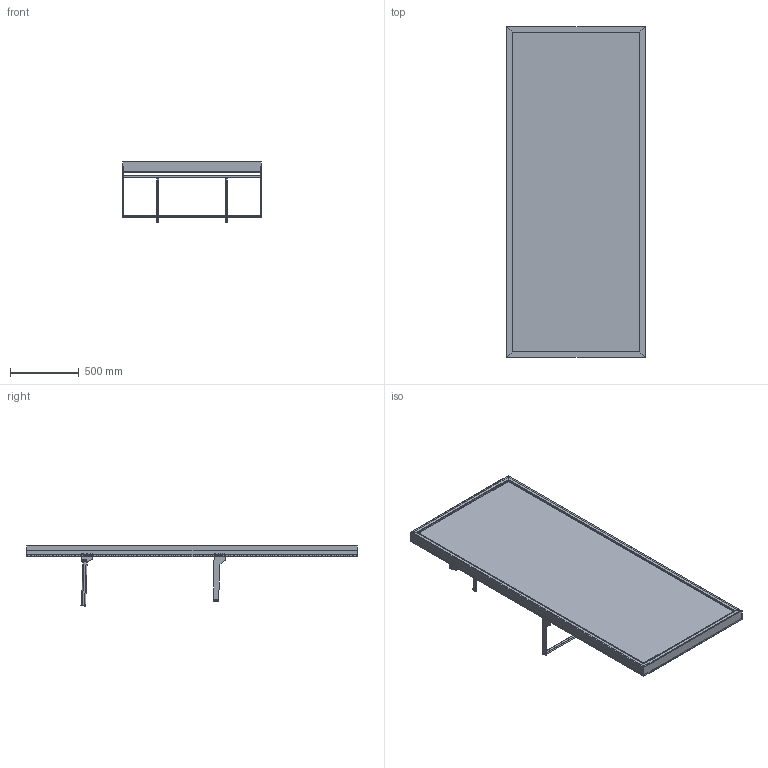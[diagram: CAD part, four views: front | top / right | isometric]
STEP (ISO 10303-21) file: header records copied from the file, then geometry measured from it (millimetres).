
FILE_DESCRIPTION (( 'STEP AP203' ), '1' );
FILE_NAME ('Heavy-Duty Single Clothing Display Wall (Config 2).STEP', '2026-03-30T14:15:05', ( '' ), ( '' ), 'SwSTEP 2.0', 'SolidWorks 2025', '' );
FILE_SCHEMA (( 'CONFIG_CONTROL_DESIGN' ));
Length unit declared in the file: millimetre
Products named in the file (15): 0001-31-130.STEP; 0001-31-SA26 - 1005W Rear support Bar_Assem8; 0001-31-SA25 - 1005W Side Facing D Rail.STEP; 0001-31-110.STEP; 0001-31-103.STEP; Heavy-Duty Single Clothing Display Wall (Config 2); 0001-31-131.STEP; 0001-31-GA10 - 1005W Slotted upbright; 0001-31-SA25 - 1005W Side Facing D Rail_Assem9; 0001-31-SA27 - Forward Facing Arm_Assem11; 0001-31-100.STEP; 0001-31-SA26 - 1005W Rear support Bar.STEP; 0001-31-112.STEP; 0001-31-SA27 - Forward Facing Arm.STEP; 0001-31-104.STEP
Assembly tree (17 placements, depth 4):
  Heavy-Duty Single Clothing Display Wall (Config 2)
    0001-31-GA10 - 1005W Slotted upbright
    0001-31-SA27 - Forward Facing Arm_Assem11  x2
      0001-31-SA27 - Forward Facing Arm.STEP
        0001-31-104.STEP
        0001-31-112.STEP
        0001-31-110.STEP
    0001-31-SA25 - 1005W Side Facing D Rail_Assem9
      0001-31-SA25 - 1005W Side Facing D Rail.STEP
        0001-31-100.STEP  x2
        0001-31-130.STEP
    0001-31-SA26 - 1005W Rear support Bar_Assem8
      0001-31-SA26 - 1005W Rear support Bar.STEP
        0001-31-103.STEP  x2
        0001-31-131.STEP
Bounding box: 1005.74 x 2400 x 436.21 mm (x, y, z)
Volume: 8369388.6 mm3; surface area: 12399612.4 mm2
Topology: 18 solids, 18 shells, 862 faces, 2906 edges, 1932 vertices
Faces by surface type: plane 732, cylinder 130
Entity records: 29935 total; most frequent: CARTESIAN_POINT 5432, ORIENTED_EDGE 5216, DIRECTION 4140, EDGE_CURVE 2608, LINE 2420, VECTOR 2420, VERTEX_POINT 1736, EDGE_LOOP 922
